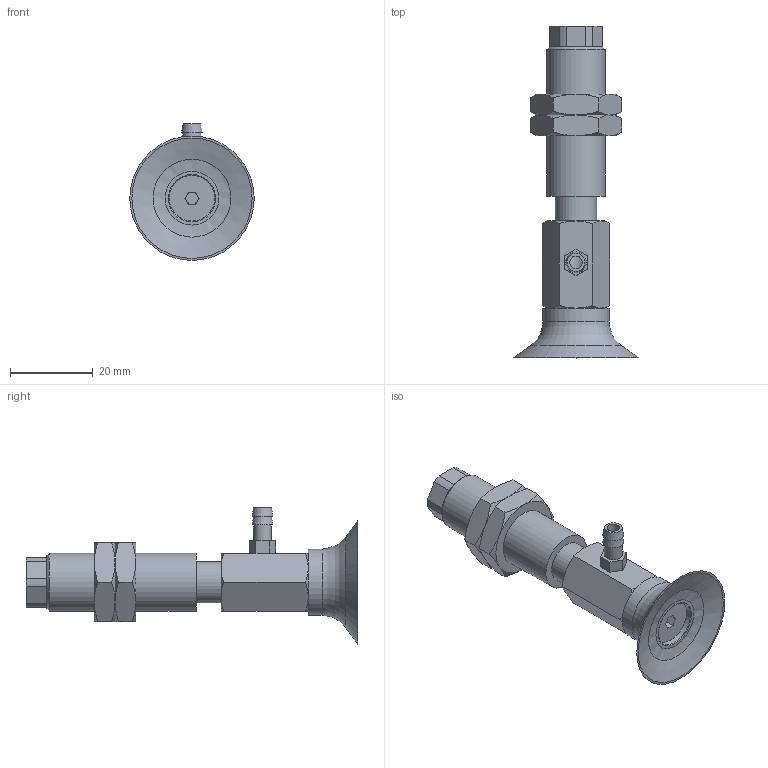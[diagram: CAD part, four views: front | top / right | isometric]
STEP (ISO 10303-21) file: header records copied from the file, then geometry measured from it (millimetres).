
FILE_DESCRIPTION(('STEP AP203'),'1');
FILE_NAME('-T.stp','2025-04-09T07:14:43',(' '),(' '),'Spatial InterOp 3D',' ',' ');
FILE_SCHEMA(('CONFIG_CONTROL_DESIGN'));
Length unit declared in the file: millimetre
Products named in the file (8): BNABPFYS-30-6-※-T; TN-PF-30-M6-NAPF; CONNECTOR-30-6; Nut-30-6-s; NAPFTS-30-6-FBODY; NAPFTS-30-6-MBODY; BPFG-30-※; T
Assembly tree (8 placements, depth 2):
  BNABPFYS-30-6-※-T
    TN-PF-30-M6-NAPF
    CONNECTOR-30-6
    Nut-30-6-s  x2
    NAPFTS-30-6-FBODY
    NAPFTS-30-6-MBODY
    BPFG-30-※
    T
Bounding box: 30 x 80 x 33 mm (x, y, z)
Volume: 14243.5 mm3; surface area: 11478.6 mm2
Topology: 8 solids, 8 shells, 163 faces, 339 edges, 206 vertices
Faces by surface type: plane 78, cone 54, cylinder 25, torus 5, bspline 1
Full cylindrical faces by diameter (mm): 3 x3, 4.134 x2, 4.3 x1, 4.917 x1, 5 x2, 6 x2, 10 x2, 11 x2, 12.917 x2, 14 x1, 16 x1
Entity records: 4209 total; most frequent: CARTESIAN_POINT 995, DIRECTION 596, ORIENTED_EDGE 500, EDGE_CURVE 250, AXIS2_PLACEMENT_3D 249, EDGE_LOOP 206, VERTEX_POINT 176, FACE_OUTER_BOUND 164
